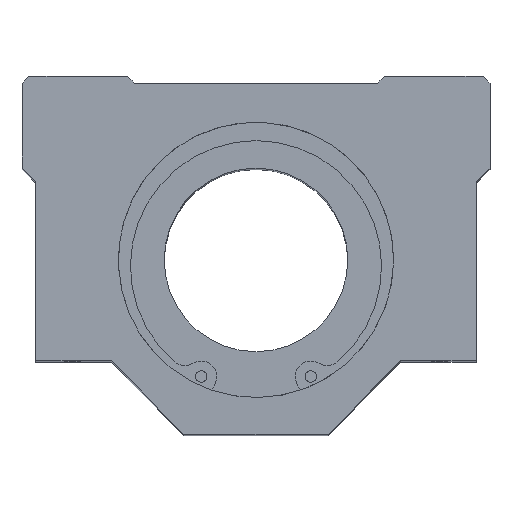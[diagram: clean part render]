
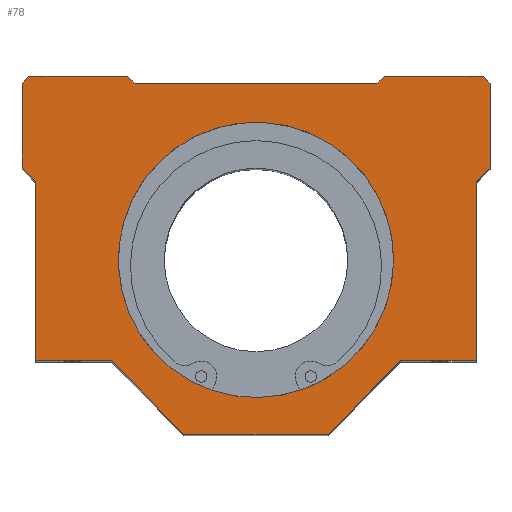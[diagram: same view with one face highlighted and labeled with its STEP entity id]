
A CAD part, top view. The second image highlights one B-rep face of the part: STEP entity #78.
In plain terms, the highlighted planar face has unit normal (0, 0, 1).
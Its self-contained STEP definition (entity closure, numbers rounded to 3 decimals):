
#78=ADVANCED_FACE('',(#146,#147),#148,.T.);
#146=FACE_OUTER_BOUND('',#299,.T.);
#147=FACE_BOUND('',#300,.T.);
#148=PLANE('',#301);
#299=EDGE_LOOP('',(#484,#485,#486,#487,#488,#489,#490,#491,#492,#493,#494,#495,#496,#497,#498,#499,#500,#501));
#300=EDGE_LOOP('',(#502));
#301=AXIS2_PLACEMENT_3D('',#503,#504,#505);
#484=ORIENTED_EDGE('',*,*,#933,.T.);
#485=ORIENTED_EDGE('',*,*,#934,.T.);
#486=ORIENTED_EDGE('',*,*,#935,.T.);
#487=ORIENTED_EDGE('',*,*,#936,.T.);
#488=ORIENTED_EDGE('',*,*,#937,.T.);
#489=ORIENTED_EDGE('',*,*,#938,.T.);
#490=ORIENTED_EDGE('',*,*,#939,.T.);
#491=ORIENTED_EDGE('',*,*,#940,.T.);
#492=ORIENTED_EDGE('',*,*,#941,.T.);
#493=ORIENTED_EDGE('',*,*,#942,.T.);
#494=ORIENTED_EDGE('',*,*,#943,.T.);
#495=ORIENTED_EDGE('',*,*,#944,.T.);
#496=ORIENTED_EDGE('',*,*,#945,.T.);
#497=ORIENTED_EDGE('',*,*,#946,.T.);
#498=ORIENTED_EDGE('',*,*,#947,.T.);
#499=ORIENTED_EDGE('',*,*,#948,.T.);
#500=ORIENTED_EDGE('',*,*,#949,.T.);
#501=ORIENTED_EDGE('',*,*,#950,.T.);
#502=ORIENTED_EDGE('',*,*,#951,.T.);
#503=CARTESIAN_POINT('',(-38.75,50.75,87.5));
#504=DIRECTION('',(0.0,-0.0,1.0));
#505=DIRECTION('',(0.0,1.0,0.0));
#933=EDGE_CURVE('',#1102,#1103,#1104,.T.);
#934=EDGE_CURVE('',#1103,#1105,#1106,.T.);
#935=EDGE_CURVE('',#1105,#1107,#1108,.T.);
#936=EDGE_CURVE('',#1107,#1109,#1110,.T.);
#937=EDGE_CURVE('',#1109,#1111,#1112,.T.);
#938=EDGE_CURVE('',#1111,#1113,#1114,.T.);
#939=EDGE_CURVE('',#1113,#1115,#1116,.T.);
#940=EDGE_CURVE('',#1115,#1117,#1118,.T.);
#941=EDGE_CURVE('',#1117,#1119,#1120,.T.);
#942=EDGE_CURVE('',#1119,#1121,#1122,.T.);
#943=EDGE_CURVE('',#1121,#1123,#1124,.T.);
#944=EDGE_CURVE('',#1123,#1125,#1126,.T.);
#945=EDGE_CURVE('',#1125,#1127,#1128,.T.);
#946=EDGE_CURVE('',#1127,#1129,#1130,.T.);
#947=EDGE_CURVE('',#1129,#1131,#1132,.T.);
#948=EDGE_CURVE('',#1131,#1133,#1134,.T.);
#949=EDGE_CURVE('',#1133,#1135,#1136,.T.);
#950=EDGE_CURVE('',#1135,#1102,#1137,.T.);
#951=EDGE_CURVE('',#1138,#1138,#1139,.F.);
#1102=VERTEX_POINT('',#1360);
#1103=VERTEX_POINT('',#1361);
#1104=LINE('',#1362,#1363);
#1105=VERTEX_POINT('',#1364);
#1106=LINE('',#1365,#1366);
#1107=VERTEX_POINT('',#1367);
#1108=LINE('',#1368,#1369);
#1109=VERTEX_POINT('',#1370);
#1110=LINE('',#1371,#1372);
#1111=VERTEX_POINT('',#1373);
#1112=LINE('',#1374,#1375);
#1113=VERTEX_POINT('',#1376);
#1114=LINE('',#1377,#1378);
#1115=VERTEX_POINT('',#1379);
#1116=LINE('',#1380,#1381);
#1117=VERTEX_POINT('',#1382);
#1118=LINE('',#1383,#1384);
#1119=VERTEX_POINT('',#1385);
#1120=LINE('',#1386,#1387);
#1121=VERTEX_POINT('',#1388);
#1122=LINE('',#1389,#1390);
#1123=VERTEX_POINT('',#1391);
#1124=LINE('',#1392,#1393);
#1125=VERTEX_POINT('',#1394);
#1126=LINE('',#1395,#1396);
#1127=VERTEX_POINT('',#1397);
#1128=LINE('',#1398,#1399);
#1129=VERTEX_POINT('',#1400);
#1130=LINE('',#1401,#1402);
#1131=VERTEX_POINT('',#1403);
#1132=LINE('',#1404,#1405);
#1133=VERTEX_POINT('',#1406);
#1134=LINE('',#1407,#1408);
#1135=VERTEX_POINT('',#1409);
#1136=LINE('',#1410,#1411);
#1137=LINE('',#1412,#1413);
#1138=VERTEX_POINT('',#1414);
#1139=CIRCLE('',#1415,30.0);
#1360=CARTESIAN_POINT('',(-26.5,38.5,87.5));
#1361=CARTESIAN_POINT('',(-28.0,40.0,87.5));
#1362=CARTESIAN_POINT('',(-26.5,38.5,87.5));
#1363=VECTOR('',#1651,1.0);
#1364=CARTESIAN_POINT('',(-49.5,40.0,87.5));
#1365=CARTESIAN_POINT('',(-28.0,40.0,87.5));
#1366=VECTOR('',#1652,1.0);
#1367=CARTESIAN_POINT('',(-51.0,38.5,87.5));
#1368=CARTESIAN_POINT('',(-49.5,40.0,87.5));
#1369=VECTOR('',#1653,1.0);
#1370=CARTESIAN_POINT('',(-51.0,20.0,87.5));
#1371=CARTESIAN_POINT('',(-51.0,38.5,87.5));
#1372=VECTOR('',#1654,1.0);
#1373=CARTESIAN_POINT('',(-48.0,17.0,87.5));
#1374=CARTESIAN_POINT('',(-51.0,20.0,87.5));
#1375=VECTOR('',#1655,1.0);
#1376=CARTESIAN_POINT('',(-48.0,-22.0,87.5));
#1377=CARTESIAN_POINT('',(-48.0,17.0,87.5));
#1378=VECTOR('',#1656,1.0);
#1379=CARTESIAN_POINT('',(-31.5,-22.0,87.5));
#1380=CARTESIAN_POINT('',(-48.0,-22.0,87.5));
#1381=VECTOR('',#1657,1.0);
#1382=CARTESIAN_POINT('',(-15.75,-38.0,87.5));
#1383=CARTESIAN_POINT('',(-31.5,-22.0,87.5));
#1384=VECTOR('',#1658,1.0);
#1385=CARTESIAN_POINT('',(15.75,-38.0,87.5));
#1386=CARTESIAN_POINT('',(-15.75,-38.0,87.5));
#1387=VECTOR('',#1659,1.0);
#1388=CARTESIAN_POINT('',(31.5,-22.0,87.5));
#1389=CARTESIAN_POINT('',(15.75,-38.0,87.5));
#1390=VECTOR('',#1660,1.0);
#1391=CARTESIAN_POINT('',(48.0,-22.0,87.5));
#1392=CARTESIAN_POINT('',(31.5,-22.0,87.5));
#1393=VECTOR('',#1661,1.0);
#1394=CARTESIAN_POINT('',(48.0,17.0,87.5));
#1395=CARTESIAN_POINT('',(48.0,-22.0,87.5));
#1396=VECTOR('',#1662,1.0);
#1397=CARTESIAN_POINT('',(51.0,20.0,87.5));
#1398=CARTESIAN_POINT('',(48.0,17.0,87.5));
#1399=VECTOR('',#1663,1.0);
#1400=CARTESIAN_POINT('',(51.0,38.5,87.5));
#1401=CARTESIAN_POINT('',(51.0,20.0,87.5));
#1402=VECTOR('',#1664,1.0);
#1403=CARTESIAN_POINT('',(49.5,40.0,87.5));
#1404=CARTESIAN_POINT('',(51.0,38.5,87.5));
#1405=VECTOR('',#1665,1.0);
#1406=CARTESIAN_POINT('',(28.0,40.0,87.5));
#1407=CARTESIAN_POINT('',(49.5,40.0,87.5));
#1408=VECTOR('',#1666,1.0);
#1409=CARTESIAN_POINT('',(26.5,38.5,87.5));
#1410=CARTESIAN_POINT('',(28.0,40.0,87.5));
#1411=VECTOR('',#1667,1.0);
#1412=CARTESIAN_POINT('',(26.5,38.5,87.5));
#1413=VECTOR('',#1668,1.0);
#1414=CARTESIAN_POINT('',(30.0,0.,87.5));
#1415=AXIS2_PLACEMENT_3D('',#1669,#1670,#1671);
#1651=DIRECTION('',(-0.707,0.707,0.0));
#1652=DIRECTION('',(-1.0,0.0,0.0));
#1653=DIRECTION('',(-0.707,-0.707,0.0));
#1654=DIRECTION('',(0.0,-1.0,0.0));
#1655=DIRECTION('',(0.707,-0.707,0.0));
#1656=DIRECTION('',(0.0,-1.0,0.0));
#1657=DIRECTION('',(1.0,0.0,0.0));
#1658=DIRECTION('',(0.702,-0.713,0.0));
#1659=DIRECTION('',(1.0,0.0,0.0));
#1660=DIRECTION('',(0.702,0.713,0.0));
#1661=DIRECTION('',(1.0,0.0,0.0));
#1662=DIRECTION('',(0.0,1.0,0.0));
#1663=DIRECTION('',(0.707,0.707,0.0));
#1664=DIRECTION('',(0.0,1.0,0.0));
#1665=DIRECTION('',(-0.707,0.707,0.0));
#1666=DIRECTION('',(-1.0,0.0,0.0));
#1667=DIRECTION('',(-0.707,-0.707,0.0));
#1668=DIRECTION('',(-1.0,0.0,0.0));
#1669=CARTESIAN_POINT('',(0.0,0.0,87.5));
#1670=DIRECTION('',(0.0,0.0,1.0));
#1671=DIRECTION('',(1.0,0.0,0.0));
